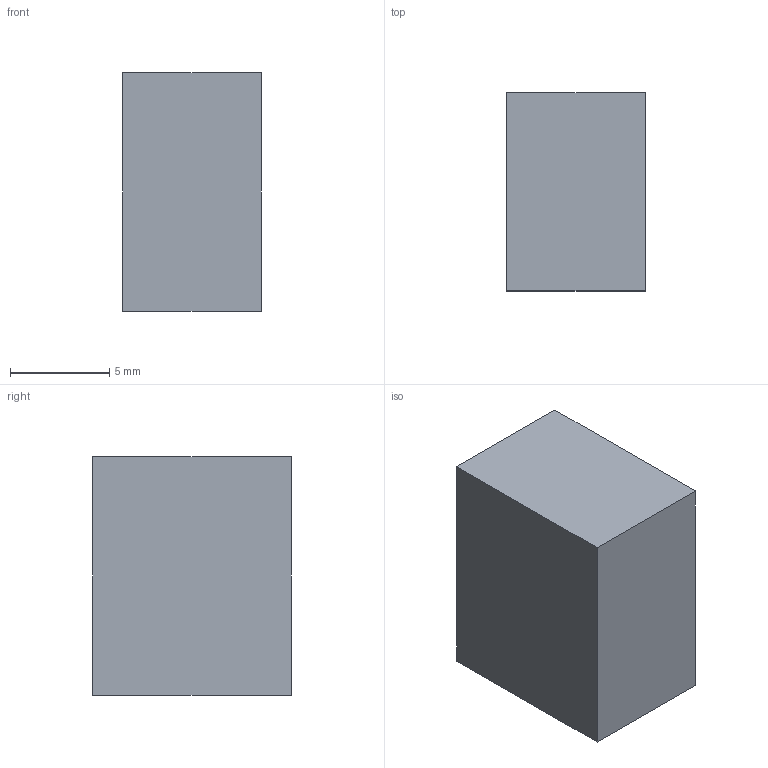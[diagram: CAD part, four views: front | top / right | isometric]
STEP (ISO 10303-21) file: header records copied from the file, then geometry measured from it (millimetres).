
FILE_DESCRIPTION(('Open CASCADE Model'),'2;1');
FILE_NAME('Open CASCADE Shape Model','2026-10-17T17:22:24',('Author'),( 'Open CASCADE'),'Open CASCADE STEP processor 7.9','Open CASCADE 7.9' ,'Unknown');
FILE_SCHEMA(('AUTOMOTIVE_DESIGN { 1 0 10303 214 1 1 1 1 }'));
Length unit declared in the file: millimetre
Products named in the file (1): Open CASCADE STEP translator 7.9 16
Bounding box: 7 x 10 x 12 mm (x, y, z)
Volume: 840 mm3; surface area: 548 mm2
Topology: 1 solids, 1 shells, 6 faces, 12 edges, 8 vertices
Faces by surface type: plane 6
Entity records: 322 total; most frequent: CARTESIAN_POINT 51, DIRECTION 50, LINE 36, VECTOR 36, ORIENTED_EDGE 24, PCURVE 24, DEFINITIONAL_REPRESENTATION 24, EDGE_CURVE 12
